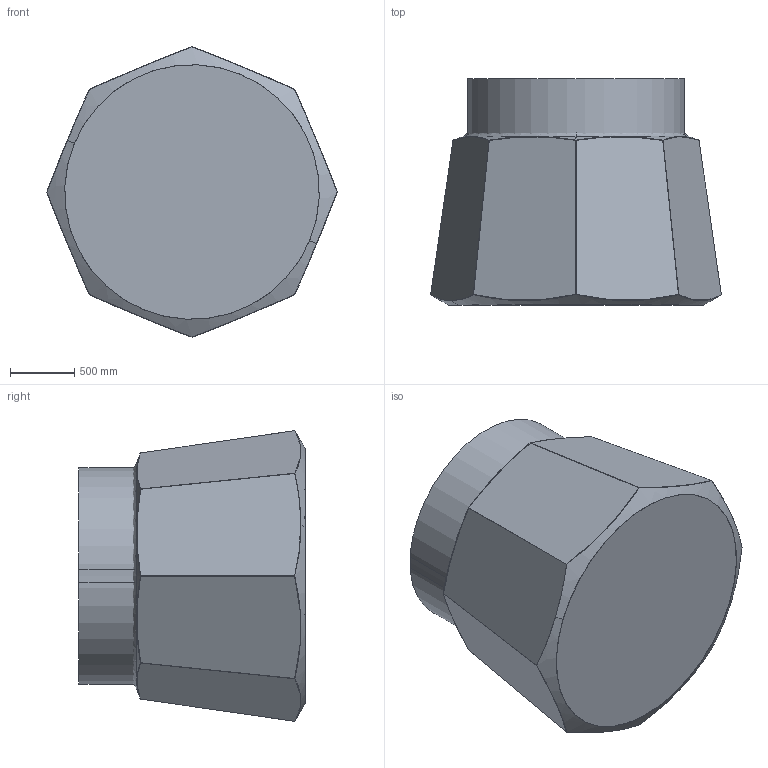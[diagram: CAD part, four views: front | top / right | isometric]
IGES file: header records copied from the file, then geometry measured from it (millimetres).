
Start section:  PTC IGES file: kanne1.igs
Global section: file name: kanne1.igs; native system: Pro/ENGINEER by Parametric Technology Corporation; preprocessor: 2004190; author: peter; organization: Unknown; date: 050414.143607; units: inch
Bounding box: 2262.85 x 1761.24 x 2262.85 mm (x, y, z)
Surface area: 31239336.4 mm2 (no closed solid volume)
Topology: 0 solids, 0 shells, 39 faces, 218 edges, 236 vertices
Faces by surface type: revolution 20, bspline 19
